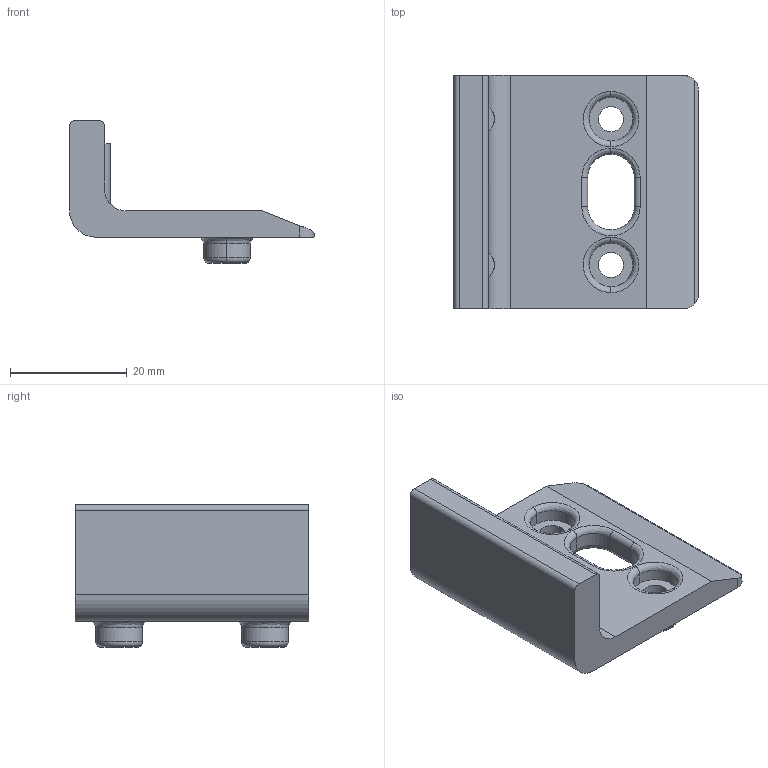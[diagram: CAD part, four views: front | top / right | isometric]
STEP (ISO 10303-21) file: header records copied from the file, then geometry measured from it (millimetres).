
FILE_DESCRIPTION (( 'STEP AP203' ), '1' );
FILE_NAME ('405050_Türanschlag 8 PA.step', '2022-06-03T06:53:58', ( '' ), ( '' ), 'SwSTEP 2.0', 'SolidWorks 2021', '' );
FILE_SCHEMA (( 'CONFIG_CONTROL_DESIGN' ));
Length unit declared in the file: millimetre
Products named in the file (1): 405050_Türanschlag 8 PA
Bounding box: 42 x 40 x 24.5 mm (x, y, z)
Volume: 10212.3 mm3; surface area: 5555.9 mm2
Topology: 1 solids, 1 shells, 66 faces, 159 edges, 97 vertices
Faces by surface type: cylinder 31, plane 17, bspline 14, torus 4
Entity records: 3058 total; most frequent: CARTESIAN_POINT 1481, ORIENTED_EDGE 318, DIRECTION 310, EDGE_CURVE 159, AXIS2_PLACEMENT_3D 123, VERTEX_POINT 97, EDGE_LOOP 74, CIRCLE 70
